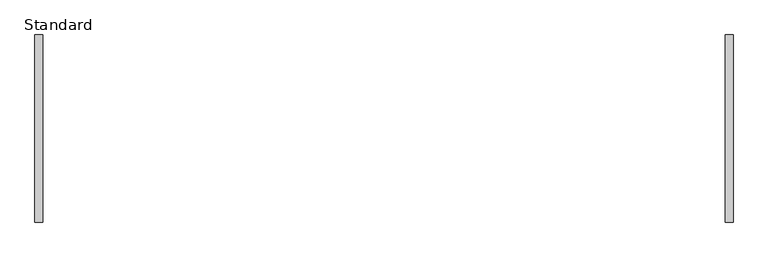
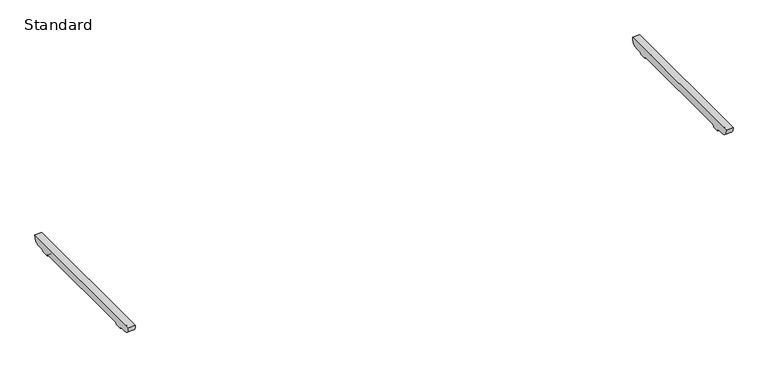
"""IFC4 building model written with IfcOpenShell, lengths in millimetres: furniture geometry, BDG_BossDesign_Tbls_AgentTables4Legs_Nested : Standard."""

from ifc_helpers import new_model, si_unit, point, frame, frame_2d, origin, place, context, project, spatial, polyline, circle_curve, trimmed, segment, composite_curve, outline, extrude, source, transform, mapped, element, save


def standard_6aeb70d0(model_context):
    return source(origin(), model_context, "Body", "SweptSolid", [
        extrude(outline(composite_curve([segment(polyline([(480.5450184, 672.0), (442.7000122, 672.0)]), True, "CONTINUOUS"), segment(trimmed(circle_curve(frame_2d((442.7000122, 660.0)), 12.0), [point((442.7000122, 672.0))], [point((430.7000122, 660.0))], True, "CARTESIAN"), True, "CONTINUOUS"), segment(polyline([(430.7000122, 660.0), (385.7000122, 660.0)]), True, "CONTINUOUS"), segment(trimmed(circle_curve(frame_2d((373.7000122, 660.0)), 12.0), [point((385.7000122, 660.0))], [point((373.7000122, 672.0))], True, "CARTESIAN"), True, "CONTINUOUS"), segment(polyline([(373.7000122, 672.0), (-373.7000122, 672.0)]), True, "CONTINUOUS"), segment(trimmed(circle_curve(frame_2d((-373.7000122, 660.0)), 12.0), [point((-373.7000122, 672.0))], [point((-385.7000122, 660.0))], True, "CARTESIAN"), True, "CONTINUOUS"), segment(polyline([(-385.7000122, 660.0), (-430.7000122, 660.0)]), True, "CONTINUOUS"), segment(trimmed(circle_curve(frame_2d((-442.7000122, 660.0)), 12.0), [point((-430.7000122, 660.0))], [point((-442.7000122, 672.0))], True, "CARTESIAN"), True, "CONTINUOUS"), segment(polyline([(-442.7000122, 672.0), (-480.5450184, 672.0)]), True, "CONTINUOUS"), segment(trimmed(circle_curve(frame_2d((-478.2220439, 716.5514119)), 44.6119324), [point((-480.5450184, 672.0))], [point((-522.5, 722.0))], False, "CARTESIAN"), True, "CONTINUOUS"), segment(polyline([(-522.5, 722.0), (522.5, 722.0)]), True, "CONTINUOUS"), segment(trimmed(circle_curve(frame_2d((478.2220439, 716.5514119)), 44.6119324), [point((522.5, 722.0))], [point((480.5450184, 672.0))], False, "CARTESIAN"), True, "CONTINUOUS")], self_intersect=False)), frame((1905.0, 0.0, 0.0), z_axis=(1.0, 0.0, 0.0), x_axis=(0.0, 1.0, 0.0)), (0.0, 0.0, 1.0), 45.0),
        extrude(outline(composite_curve([segment(polyline([(480.5450184, 672.0), (442.7000122, 672.0)]), True, "CONTINUOUS"), segment(trimmed(circle_curve(frame_2d((442.7000122, 660.0)), 12.0), [point((442.7000122, 672.0))], [point((430.7000122, 660.0))], True, "CARTESIAN"), True, "CONTINUOUS"), segment(polyline([(430.7000122, 660.0), (385.7000122, 660.0)]), True, "CONTINUOUS"), segment(trimmed(circle_curve(frame_2d((373.7000122, 660.0)), 12.0), [point((385.7000122, 660.0))], [point((373.7000122, 672.0))], True, "CARTESIAN"), True, "CONTINUOUS"), segment(polyline([(373.7000122, 672.0), (-373.7000122, 672.0)]), True, "CONTINUOUS"), segment(trimmed(circle_curve(frame_2d((-373.7000122, 660.0)), 12.0), [point((-373.7000122, 672.0))], [point((-385.7000122, 660.0))], True, "CARTESIAN"), True, "CONTINUOUS"), segment(polyline([(-385.7000122, 660.0), (-430.7000122, 660.0)]), True, "CONTINUOUS"), segment(trimmed(circle_curve(frame_2d((-442.7000122, 660.0)), 12.0), [point((-430.7000122, 660.0))], [point((-442.7000122, 672.0))], True, "CARTESIAN"), True, "CONTINUOUS"), segment(polyline([(-442.7000122, 672.0), (-480.5450184, 672.0)]), True, "CONTINUOUS"), segment(trimmed(circle_curve(frame_2d((-478.2220439, 716.5514119)), 44.6119324), [point((-480.5450184, 672.0))], [point((-522.5, 722.0))], False, "CARTESIAN"), True, "CONTINUOUS"), segment(polyline([(-522.5, 722.0), (522.5, 722.0)]), True, "CONTINUOUS"), segment(trimmed(circle_curve(frame_2d((478.2220439, 716.5514119)), 44.6119324), [point((522.5, 722.0))], [point((480.5450184, 672.0))], False, "CARTESIAN"), True, "CONTINUOUS")], self_intersect=False)), frame((-1950.0, 0.0, 0.0), z_axis=(1.0, 0.0, 0.0), x_axis=(0.0, 1.0, 0.0)), (0.0, 0.0, 1.0), 45.0),
    ])


if __name__ == "__main__":
    model = new_model("IFC4")
    model_context = context("Model", 3, world=origin())
    ifc_project = project(units=[si_unit("LENGTHUNIT", "METRE", prefix="MILLI")], contexts=[model_context])
    site = spatial("IfcSite", under=ifc_project)
    building = spatial("IfcBuilding", under=site)
    placement = place(None, origin())
    standard_shape = standard_6aeb70d0(model_context)
    element("IfcFurniture", 1, ObjectType="BDG_BossDesign_Tbls_AgentTables4Legs_Nested : Standard", at=placement, inside=building, context=model_context, shape_type="MappedRepresentation", body=[
        mapped(standard_shape, transform((0.0, 0.0, 0.0), x_axis=(1.0, 0.0, 0.0), y_axis=(0.0, 1.0, 0.0), z_axis=(0.0, 0.0, 1.0))),
    ])
    save(model, "model.ifc")
